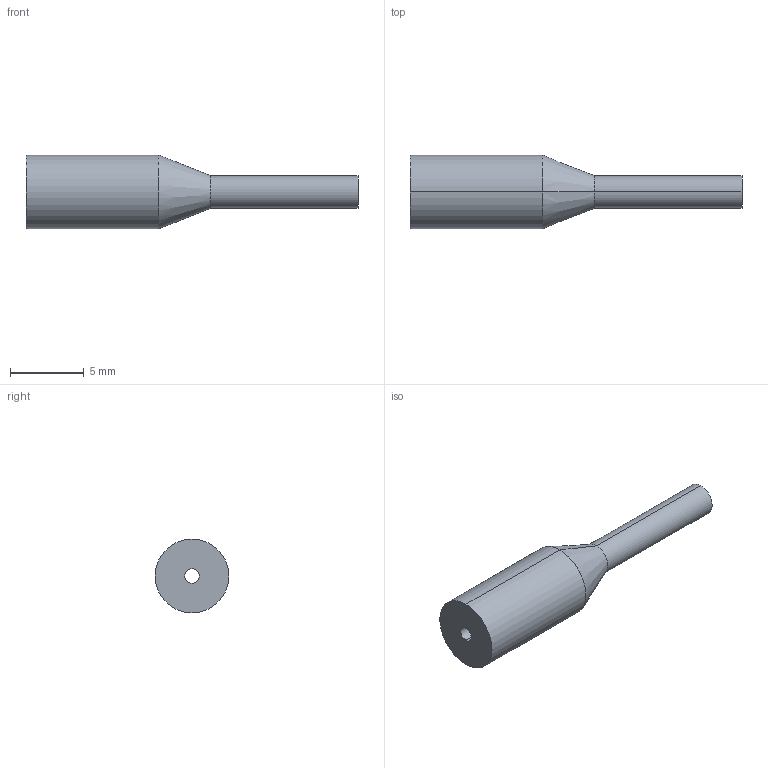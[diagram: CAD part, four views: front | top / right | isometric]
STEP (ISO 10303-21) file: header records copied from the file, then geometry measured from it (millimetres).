
FILE_DESCRIPTION (( 'STEP AP203' ), '1' );
FILE_NAME ('FX-AT15.STEP', '2005-09-09T02:31:04', ( '' ), ( '' ), 'SwSTEP 2.0', 'SolidWorks 2004073', '' );
FILE_SCHEMA (( 'CONFIG_CONTROL_DESIGN' ));
Length unit declared in the file: millimetre
Products named in the file (1): FX-AT15
Bounding box: 22.5 x 5 x 5 mm (x, y, z)
Volume: 234.5 mm3; surface area: 345.7 mm2
Topology: 1 solids, 1 shells, 10 faces, 20 edges, 12 vertices
Faces by surface type: cylinder 6, plane 2, cone 2
Entity records: 345 total; most frequent: DIRECTION 54, CARTESIAN_POINT 43, ORIENTED_EDGE 40, AXIS2_PLACEMENT_3D 23, EDGE_CURVE 20, EDGE_LOOP 12, VERTEX_POINT 12, CIRCLE 12
